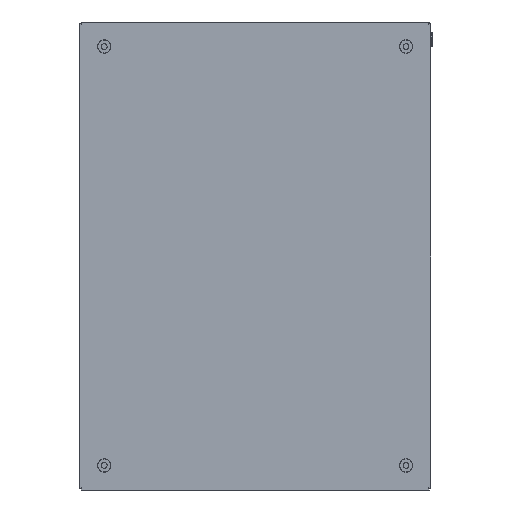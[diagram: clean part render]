
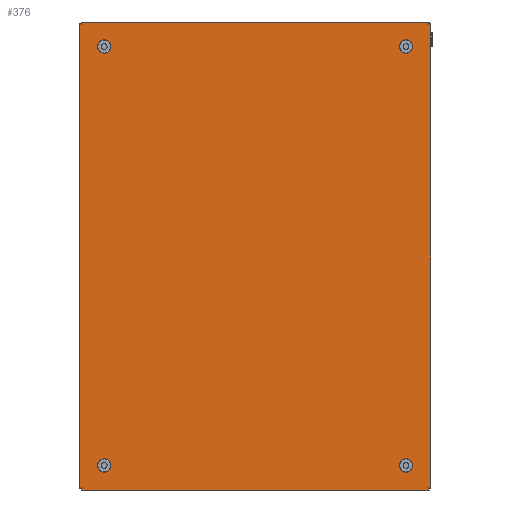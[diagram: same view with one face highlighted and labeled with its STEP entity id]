
A CAD part, front view. The second image highlights one B-rep face of the part: STEP entity #376.
In plain terms, the highlighted planar face has unit normal (0, -1, 0).
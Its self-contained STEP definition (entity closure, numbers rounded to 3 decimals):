
#376 = ADVANCED_FACE('',(#377,#397,#408,#428,#439),#561,.T.);
#377 = FACE_BOUND('',#378,.T.);
#378 = EDGE_LOOP('',(#379,#390));
#379 = ORIENTED_EDGE('',*,*,#380,.F.);
#380 = EDGE_CURVE('',#381,#383,#385,.T.);
#381 = VERTEX_POINT('',#382);
#382 = CARTESIAN_POINT('',(-129.,-1.2,-175.1));
#383 = VERTEX_POINT('',#384);
#384 = CARTESIAN_POINT('',(-129.,-1.2,-182.9));
#385 = CIRCLE('',#386,3.9);
#386 = AXIS2_PLACEMENT_3D('',#387,#388,#389);
#387 = CARTESIAN_POINT('',(-129.,-1.2,-179.));
#388 = DIRECTION('',(0.,-1.,0.));
#389 = DIRECTION('',(0.,0.,1.));
#390 = ORIENTED_EDGE('',*,*,#391,.F.);
#391 = EDGE_CURVE('',#383,#381,#392,.T.);
#392 = CIRCLE('',#393,3.9);
#393 = AXIS2_PLACEMENT_3D('',#394,#395,#396);
#394 = CARTESIAN_POINT('',(-129.,-1.2,-179.));
#395 = DIRECTION('',(0.,-1.,0.));
#396 = DIRECTION('',(0.,0.,1.));
#397 = FACE_BOUND('',#398,.T.);
#398 = EDGE_LOOP('',(#399));
#399 = ORIENTED_EDGE('',*,*,#400,.F.);
#400 = EDGE_CURVE('',#401,#401,#403,.T.);
#401 = VERTEX_POINT('',#402);
#402 = CARTESIAN_POINT('',(129.,-1.2,-182.9));
#403 = CIRCLE('',#404,3.9);
#404 = AXIS2_PLACEMENT_3D('',#405,#406,#407);
#405 = CARTESIAN_POINT('',(129.,-1.2,-179.));
#406 = DIRECTION('',(0.,-1.,0.));
#407 = DIRECTION('',(0.,0.,-1.));
#408 = FACE_BOUND('',#409,.T.);
#409 = EDGE_LOOP('',(#410,#421));
#410 = ORIENTED_EDGE('',*,*,#411,.F.);
#411 = EDGE_CURVE('',#412,#414,#416,.T.);
#412 = VERTEX_POINT('',#413);
#413 = CARTESIAN_POINT('',(129.,-1.2,182.9));
#414 = VERTEX_POINT('',#415);
#415 = CARTESIAN_POINT('',(129.,-1.2,175.1));
#416 = CIRCLE('',#417,3.9);
#417 = AXIS2_PLACEMENT_3D('',#418,#419,#420);
#418 = CARTESIAN_POINT('',(129.,-1.2,179.));
#419 = DIRECTION('',(0.,-1.,0.));
#420 = DIRECTION('',(0.,0.,1.));
#421 = ORIENTED_EDGE('',*,*,#422,.F.);
#422 = EDGE_CURVE('',#414,#412,#423,.T.);
#423 = CIRCLE('',#424,3.9);
#424 = AXIS2_PLACEMENT_3D('',#425,#426,#427);
#425 = CARTESIAN_POINT('',(129.,-1.2,179.));
#426 = DIRECTION('',(0.,-1.,0.));
#427 = DIRECTION('',(0.,0.,1.));
#428 = FACE_BOUND('',#429,.T.);
#429 = EDGE_LOOP('',(#430));
#430 = ORIENTED_EDGE('',*,*,#431,.F.);
#431 = EDGE_CURVE('',#432,#432,#434,.T.);
#432 = VERTEX_POINT('',#433);
#433 = CARTESIAN_POINT('',(-129.,-1.2,175.1));
#434 = CIRCLE('',#435,3.9);
#435 = AXIS2_PLACEMENT_3D('',#436,#437,#438);
#436 = CARTESIAN_POINT('',(-129.,-1.2,179.));
#437 = DIRECTION('',(0.,-1.,0.));
#438 = DIRECTION('',(0.,0.,-1.));
#439 = FACE_BOUND('',#440,.T.);
#440 = EDGE_LOOP('',(#441,#454,#465,#473,#484,#495,#503,#514,#525,#533,
    #544,#555));
#441 = ORIENTED_EDGE('',*,*,#442,.F.);
#442 = EDGE_CURVE('',#443,#445,#447,.T.);
#443 = VERTEX_POINT('',#444);
#444 = CARTESIAN_POINT('',(148.2,-1.2,198.2));
#445 = VERTEX_POINT('',#446);
#446 = CARTESIAN_POINT('',(150.,-1.2,198.574));
#447 = B_SPLINE_CURVE_WITH_KNOTS('',3,(#448,#449,#450,#451,#452,#453),
  .UNSPECIFIED.,.F.,.F.,(4,2,4),(0.004,0.005,
    0.006),.UNSPECIFIED.);
#448 = CARTESIAN_POINT('',(148.2,-1.2,198.2));
#449 = CARTESIAN_POINT('',(148.495,-1.2,198.287));
#450 = CARTESIAN_POINT('',(148.79,-1.2,198.371));
#451 = CARTESIAN_POINT('',(149.39,-1.2,198.498));
#452 = CARTESIAN_POINT('',(149.695,-1.2,198.543));
#453 = CARTESIAN_POINT('',(150.,-1.2,198.574));
#454 = ORIENTED_EDGE('',*,*,#455,.T.);
#455 = EDGE_CURVE('',#443,#456,#458,.T.);
#456 = VERTEX_POINT('',#457);
#457 = CARTESIAN_POINT('',(148.574,-1.2,200.));
#458 = B_SPLINE_CURVE_WITH_KNOTS('',3,(#459,#460,#461,#462,#463,#464),
  .UNSPECIFIED.,.F.,.F.,(4,2,4),(0.004,0.005,
    0.006),.UNSPECIFIED.);
#459 = CARTESIAN_POINT('',(148.2,-1.2,198.2));
#460 = CARTESIAN_POINT('',(148.287,-1.2,198.495));
#461 = CARTESIAN_POINT('',(148.371,-1.2,198.79));
#462 = CARTESIAN_POINT('',(148.498,-1.2,199.39));
#463 = CARTESIAN_POINT('',(148.543,-1.2,199.695));
#464 = CARTESIAN_POINT('',(148.574,-1.2,200.));
#465 = ORIENTED_EDGE('',*,*,#466,.T.);
#466 = EDGE_CURVE('',#456,#467,#469,.T.);
#467 = VERTEX_POINT('',#468);
#468 = CARTESIAN_POINT('',(-148.574,-1.2,200.));
#469 = LINE('',#470,#471);
#470 = CARTESIAN_POINT('',(2150.,-1.2,200.));
#471 = VECTOR('',#472,1.);
#472 = DIRECTION('',(-1.,0.,0.));
#473 = ORIENTED_EDGE('',*,*,#474,.F.);
#474 = EDGE_CURVE('',#475,#467,#477,.T.);
#475 = VERTEX_POINT('',#476);
#476 = CARTESIAN_POINT('',(-148.2,-1.2,198.2));
#477 = B_SPLINE_CURVE_WITH_KNOTS('',3,(#478,#479,#480,#481,#482,#483),
  .UNSPECIFIED.,.F.,.F.,(4,2,4),(0.004,0.005,
    0.006),.UNSPECIFIED.);
#478 = CARTESIAN_POINT('',(-148.2,-1.2,198.2));
#479 = CARTESIAN_POINT('',(-148.287,-1.2,198.495));
#480 = CARTESIAN_POINT('',(-148.371,-1.2,198.79));
#481 = CARTESIAN_POINT('',(-148.498,-1.2,199.39));
#482 = CARTESIAN_POINT('',(-148.543,-1.2,199.695));
#483 = CARTESIAN_POINT('',(-148.574,-1.2,200.));
#484 = ORIENTED_EDGE('',*,*,#485,.T.);
#485 = EDGE_CURVE('',#475,#486,#488,.T.);
#486 = VERTEX_POINT('',#487);
#487 = CARTESIAN_POINT('',(-150.,-1.2,198.574));
#488 = B_SPLINE_CURVE_WITH_KNOTS('',3,(#489,#490,#491,#492,#493,#494),
  .UNSPECIFIED.,.F.,.F.,(4,2,4),(0.004,0.005,
    0.006),.UNSPECIFIED.);
#489 = CARTESIAN_POINT('',(-148.2,-1.2,198.2));
#490 = CARTESIAN_POINT('',(-148.495,-1.2,198.287));
#491 = CARTESIAN_POINT('',(-148.79,-1.2,198.371));
#492 = CARTESIAN_POINT('',(-149.39,-1.2,198.498));
#493 = CARTESIAN_POINT('',(-149.695,-1.2,198.543));
#494 = CARTESIAN_POINT('',(-150.,-1.2,198.574));
#495 = ORIENTED_EDGE('',*,*,#496,.T.);
#496 = EDGE_CURVE('',#486,#497,#499,.T.);
#497 = VERTEX_POINT('',#498);
#498 = CARTESIAN_POINT('',(-150.,-1.2,-198.574));
#499 = LINE('',#500,#501);
#500 = CARTESIAN_POINT('',(-150.,-1.2,2200.));
#501 = VECTOR('',#502,1.);
#502 = DIRECTION('',(0.,0.,-1.));
#503 = ORIENTED_EDGE('',*,*,#504,.F.);
#504 = EDGE_CURVE('',#505,#497,#507,.T.);
#505 = VERTEX_POINT('',#506);
#506 = CARTESIAN_POINT('',(-148.2,-1.2,-198.2));
#507 = B_SPLINE_CURVE_WITH_KNOTS('',3,(#508,#509,#510,#511,#512,#513),
  .UNSPECIFIED.,.F.,.F.,(4,2,4),(0.004,0.005,
    0.006),.UNSPECIFIED.);
#508 = CARTESIAN_POINT('',(-148.2,-1.2,-198.2));
#509 = CARTESIAN_POINT('',(-148.495,-1.2,-198.287));
#510 = CARTESIAN_POINT('',(-148.79,-1.2,-198.371));
#511 = CARTESIAN_POINT('',(-149.39,-1.2,-198.498));
#512 = CARTESIAN_POINT('',(-149.695,-1.2,-198.543));
#513 = CARTESIAN_POINT('',(-150.,-1.2,-198.574));
#514 = ORIENTED_EDGE('',*,*,#515,.T.);
#515 = EDGE_CURVE('',#505,#516,#518,.T.);
#516 = VERTEX_POINT('',#517);
#517 = CARTESIAN_POINT('',(-148.574,-1.2,-200.));
#518 = B_SPLINE_CURVE_WITH_KNOTS('',3,(#519,#520,#521,#522,#523,#524),
  .UNSPECIFIED.,.F.,.F.,(4,2,4),(0.004,0.005,
    0.006),.UNSPECIFIED.);
#519 = CARTESIAN_POINT('',(-148.2,-1.2,-198.2));
#520 = CARTESIAN_POINT('',(-148.287,-1.2,-198.495));
#521 = CARTESIAN_POINT('',(-148.371,-1.2,-198.79));
#522 = CARTESIAN_POINT('',(-148.498,-1.2,-199.39));
#523 = CARTESIAN_POINT('',(-148.543,-1.2,-199.695));
#524 = CARTESIAN_POINT('',(-148.574,-1.2,-200.));
#525 = ORIENTED_EDGE('',*,*,#526,.T.);
#526 = EDGE_CURVE('',#516,#527,#529,.T.);
#527 = VERTEX_POINT('',#528);
#528 = CARTESIAN_POINT('',(148.574,-1.2,-200.));
#529 = LINE('',#530,#531);
#530 = CARTESIAN_POINT('',(-2150.,-1.2,-200.));
#531 = VECTOR('',#532,1.);
#532 = DIRECTION('',(1.,0.,0.));
#533 = ORIENTED_EDGE('',*,*,#534,.F.);
#534 = EDGE_CURVE('',#535,#527,#537,.T.);
#535 = VERTEX_POINT('',#536);
#536 = CARTESIAN_POINT('',(148.2,-1.2,-198.2));
#537 = B_SPLINE_CURVE_WITH_KNOTS('',3,(#538,#539,#540,#541,#542,#543),
  .UNSPECIFIED.,.F.,.F.,(4,2,4),(0.004,0.005,
    0.006),.UNSPECIFIED.);
#538 = CARTESIAN_POINT('',(148.2,-1.2,-198.2));
#539 = CARTESIAN_POINT('',(148.287,-1.2,-198.495));
#540 = CARTESIAN_POINT('',(148.371,-1.2,-198.79));
#541 = CARTESIAN_POINT('',(148.498,-1.2,-199.39));
#542 = CARTESIAN_POINT('',(148.543,-1.2,-199.695));
#543 = CARTESIAN_POINT('',(148.574,-1.2,-200.));
#544 = ORIENTED_EDGE('',*,*,#545,.T.);
#545 = EDGE_CURVE('',#535,#546,#548,.T.);
#546 = VERTEX_POINT('',#547);
#547 = CARTESIAN_POINT('',(150.,-1.2,-198.574));
#548 = B_SPLINE_CURVE_WITH_KNOTS('',3,(#549,#550,#551,#552,#553,#554),
  .UNSPECIFIED.,.F.,.F.,(4,2,4),(0.004,0.005,
    0.006),.UNSPECIFIED.);
#549 = CARTESIAN_POINT('',(148.2,-1.2,-198.2));
#550 = CARTESIAN_POINT('',(148.495,-1.2,-198.287));
#551 = CARTESIAN_POINT('',(148.79,-1.2,-198.371));
#552 = CARTESIAN_POINT('',(149.39,-1.2,-198.498));
#553 = CARTESIAN_POINT('',(149.695,-1.2,-198.543));
#554 = CARTESIAN_POINT('',(150.,-1.2,-198.574));
#555 = ORIENTED_EDGE('',*,*,#556,.T.);
#556 = EDGE_CURVE('',#546,#445,#557,.T.);
#557 = LINE('',#558,#559);
#558 = CARTESIAN_POINT('',(150.,-1.2,-2200.));
#559 = VECTOR('',#560,1.);
#560 = DIRECTION('',(0.,0.,1.));
#561 = PLANE('',#562);
#562 = AXIS2_PLACEMENT_3D('',#563,#564,#565);
#563 = CARTESIAN_POINT('',(0.,-1.2,0.));
#564 = DIRECTION('',(0.,-1.,0.));
#565 = DIRECTION('',(0.,-0.,-1.));
